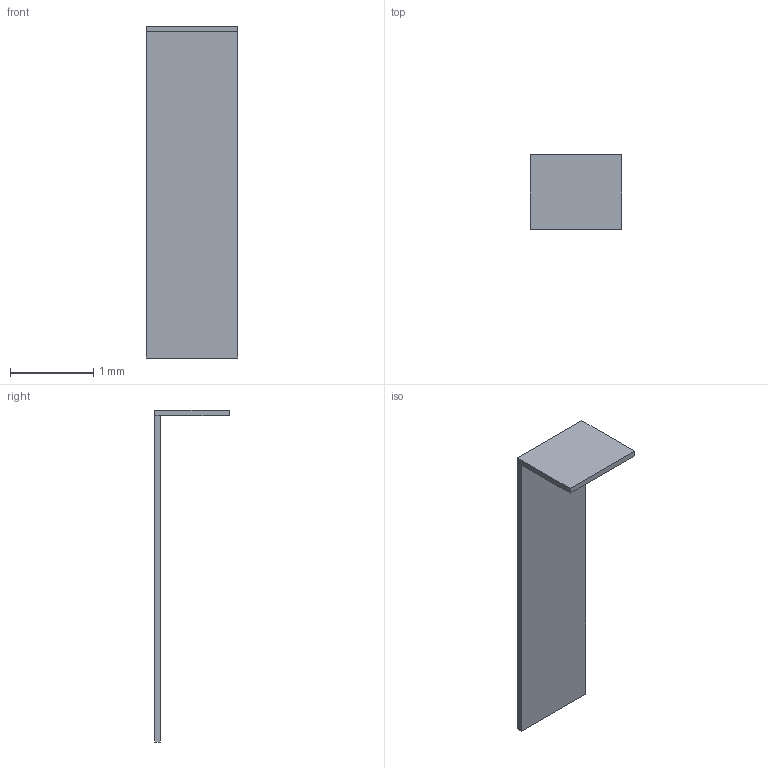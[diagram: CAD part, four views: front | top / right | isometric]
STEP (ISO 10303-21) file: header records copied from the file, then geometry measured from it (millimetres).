
FILE_DESCRIPTION(('Open CASCADE Model'),'2;1');
FILE_NAME('Open CASCADE Shape Model','2026-09-24T17:42:53',('Author'),( 'Open CASCADE'),'Open CASCADE STEP processor 7.8','Open CASCADE 7.8' ,'Unknown');
FILE_SCHEMA(('AUTOMOTIVE_DESIGN { 1 0 10303 214 1 1 1 1 }'));
Length unit declared in the file: millimetre
Products named in the file (1): Open CASCADE STEP translator 7.8 41
Bounding box: 1.1 x 0.9 x 4 mm (x, y, z)
Volume: 0.4 mm3; surface area: 11.5 mm2
Topology: 1 solids, 1 shells, 11 faces, 23 edges, 14 vertices
Faces by surface type: plane 11
Entity records: 594 total; most frequent: CARTESIAN_POINT 95, DIRECTION 93, LINE 69, VECTOR 69, ORIENTED_EDGE 46, PCURVE 46, DEFINITIONAL_REPRESENTATION 46, EDGE_CURVE 23
